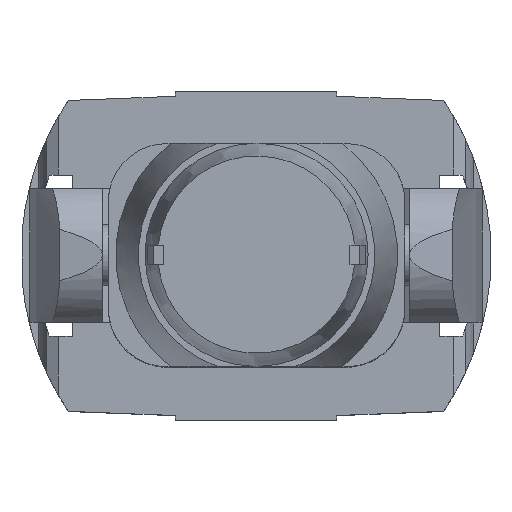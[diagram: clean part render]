
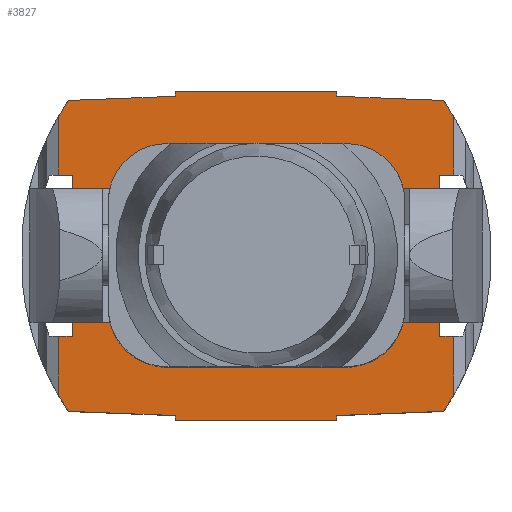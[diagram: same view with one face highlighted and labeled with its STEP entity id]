
A CAD part, top view. The second image highlights one B-rep face of the part: STEP entity #3827.
In plain terms, the highlighted planar face has unit normal (0, 0, 1).
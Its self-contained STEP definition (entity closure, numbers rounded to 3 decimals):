
#227=CIRCLE('',#4169,25.);
#228=CIRCLE('',#4170,286.325);
#229=CIRCLE('',#4171,286.325);
#230=CIRCLE('',#4172,286.325);
#231=CIRCLE('',#4173,286.325);
#489=ORIENTED_EDGE('',*,*,#1516,.T.);
#490=ORIENTED_EDGE('',*,*,#1517,.F.);
#491=ORIENTED_EDGE('',*,*,#1518,.F.);
#492=ORIENTED_EDGE('',*,*,#1394,.F.);
#493=ORIENTED_EDGE('',*,*,#1519,.F.);
#494=ORIENTED_EDGE('',*,*,#1520,.F.);
#495=ORIENTED_EDGE('',*,*,#1521,.F.);
#496=ORIENTED_EDGE('',*,*,#1479,.T.);
#497=ORIENTED_EDGE('',*,*,#1476,.F.);
#498=ORIENTED_EDGE('',*,*,#1467,.F.);
#499=ORIENTED_EDGE('',*,*,#1471,.T.);
#500=ORIENTED_EDGE('',*,*,#1522,.F.);
#501=ORIENTED_EDGE('',*,*,#1523,.T.);
#502=ORIENTED_EDGE('',*,*,#1524,.T.);
#503=ORIENTED_EDGE('',*,*,#1525,.T.);
#504=ORIENTED_EDGE('',*,*,#1526,.T.);
#505=ORIENTED_EDGE('',*,*,#1527,.T.);
#506=ORIENTED_EDGE('',*,*,#1528,.T.);
#507=ORIENTED_EDGE('',*,*,#1529,.T.);
#508=ORIENTED_EDGE('',*,*,#1530,.T.);
#509=ORIENTED_EDGE('',*,*,#1449,.T.);
#510=ORIENTED_EDGE('',*,*,#1453,.F.);
#511=ORIENTED_EDGE('',*,*,#1474,.F.);
#512=ORIENTED_EDGE('',*,*,#1514,.F.);
#513=ORIENTED_EDGE('',*,*,#1531,.F.);
#1394=EDGE_CURVE('',#1930,#1927,#2306,.T.);
#1449=EDGE_CURVE('',#1984,#1983,#2333,.T.);
#1453=EDGE_CURVE('',#1985,#1983,#2337,.T.);
#1467=EDGE_CURVE('',#1998,#1999,#2341,.T.);
#1471=EDGE_CURVE('',#1998,#2000,#2345,.T.);
#1474=EDGE_CURVE('',#2001,#1985,#2348,.T.);
#1476=EDGE_CURVE('',#1999,#2002,#2350,.T.);
#1479=EDGE_CURVE('',#2004,#2002,#2353,.T.);
#1514=EDGE_CURVE('',#2024,#2001,#2373,.T.);
#1516=EDGE_CURVE('',#2025,#2025,#227,.T.);
#1517=EDGE_CURVE('',#2026,#2027,#2374,.T.);
#1518=EDGE_CURVE('',#1927,#2026,#2375,.T.);
#1519=EDGE_CURVE('',#2028,#1930,#2376,.T.);
#1520=EDGE_CURVE('',#2029,#2028,#2377,.T.);
#1521=EDGE_CURVE('',#2004,#2029,#228,.T.);
#1522=EDGE_CURVE('',#2030,#2000,#2378,.T.);
#1523=EDGE_CURVE('',#2030,#2031,#229,.T.);
#1524=EDGE_CURVE('',#2031,#2032,#2379,.T.);
#1525=EDGE_CURVE('',#2032,#2033,#2380,.T.);
#1526=EDGE_CURVE('',#2033,#2034,#2381,.T.);
#1527=EDGE_CURVE('',#2034,#2035,#2382,.T.);
#1528=EDGE_CURVE('',#2035,#2036,#2383,.T.);
#1529=EDGE_CURVE('',#2036,#2037,#230,.T.);
#1530=EDGE_CURVE('',#2037,#1984,#2384,.T.);
#1531=EDGE_CURVE('',#2027,#2024,#231,.T.);
#1927=VERTEX_POINT('',#5652);
#1930=VERTEX_POINT('',#5657);
#1983=VERTEX_POINT('',#5790);
#1984=VERTEX_POINT('',#5792);
#1985=VERTEX_POINT('',#5797);
#1998=VERTEX_POINT('',#5848);
#1999=VERTEX_POINT('',#5850);
#2000=VERTEX_POINT('',#5855);
#2001=VERTEX_POINT('',#5860);
#2002=VERTEX_POINT('',#5865);
#2004=VERTEX_POINT('',#5871);
#2024=VERTEX_POINT('',#5960);
#2025=VERTEX_POINT('',#5964);
#2026=VERTEX_POINT('',#5966);
#2027=VERTEX_POINT('',#5967);
#2028=VERTEX_POINT('',#5970);
#2029=VERTEX_POINT('',#5972);
#2030=VERTEX_POINT('',#5975);
#2031=VERTEX_POINT('',#5977);
#2032=VERTEX_POINT('',#5979);
#2033=VERTEX_POINT('',#5981);
#2034=VERTEX_POINT('',#5983);
#2035=VERTEX_POINT('',#5985);
#2036=VERTEX_POINT('',#5987);
#2037=VERTEX_POINT('',#5989);
#2306=LINE('',#5658,#2658);
#2333=LINE('',#5791,#2685);
#2337=LINE('',#5798,#2689);
#2341=LINE('',#5849,#2693);
#2345=LINE('',#5856,#2697);
#2348=LINE('',#5861,#2700);
#2350=LINE('',#5864,#2702);
#2353=LINE('',#5870,#2705);
#2373=LINE('',#5959,#2725);
#2374=LINE('',#5965,#2726);
#2375=LINE('',#5968,#2727);
#2376=LINE('',#5969,#2728);
#2377=LINE('',#5971,#2729);
#2378=LINE('',#5974,#2730);
#2379=LINE('',#5978,#2731);
#2380=LINE('',#5980,#2732);
#2381=LINE('',#5982,#2733);
#2382=LINE('',#5984,#2734);
#2383=LINE('',#5986,#2735);
#2384=LINE('',#5990,#2736);
#2658=VECTOR('',#4513,1000.);
#2685=VECTOR('',#4594,1000.);
#2689=VECTOR('',#4600,1000.);
#2693=VECTOR('',#4620,1000.);
#2697=VECTOR('',#4626,1000.);
#2700=VECTOR('',#4631,1000.);
#2702=VECTOR('',#4635,1000.);
#2705=VECTOR('',#4640,1000.);
#2725=VECTOR('',#4708,1000.);
#2726=VECTOR('',#4715,1000.);
#2727=VECTOR('',#4716,1000.);
#2728=VECTOR('',#4717,1000.);
#2729=VECTOR('',#4718,1000.);
#2730=VECTOR('',#4721,1000.);
#2731=VECTOR('',#4724,1000.);
#2732=VECTOR('',#4725,1000.);
#2733=VECTOR('',#4726,1000.);
#2734=VECTOR('',#4727,1000.);
#2735=VECTOR('',#4728,1000.);
#2736=VECTOR('',#4731,1000.);
#3044=EDGE_LOOP('',(#489));
#3045=EDGE_LOOP('',(#490,#491,#492,#493,#494,#495,#496,#497,#498,#499,#500,
#501,#502,#503,#504,#505,#506,#507,#508,#509,#510,#511,#512,#513));
#3362=FACE_BOUND('',#3044,.T.);
#3363=FACE_BOUND('',#3045,.T.);
#3654=PLANE('',#4168);
#3827=ADVANCED_FACE('',(#3362,#3363),#3654,.F.);
#4168=AXIS2_PLACEMENT_3D('',#5962,#4711,#4712);
#4169=AXIS2_PLACEMENT_3D('',#5963,#4713,#4714);
#4170=AXIS2_PLACEMENT_3D('',#5973,#4719,#4720);
#4171=AXIS2_PLACEMENT_3D('',#5976,#4722,#4723);
#4172=AXIS2_PLACEMENT_3D('',#5988,#4729,#4730);
#4173=AXIS2_PLACEMENT_3D('',#5991,#4732,#4733);
#4513=DIRECTION('',(-1.,0.,0.));
#4594=DIRECTION('',(1.,0.,0.));
#4600=DIRECTION('',(0.,1.,0.));
#4620=DIRECTION('',(0.,-1.,0.));
#4626=DIRECTION('',(1.,0.,0.));
#4631=DIRECTION('',(1.,0.,0.));
#4635=DIRECTION('',(1.,0.,0.));
#4640=DIRECTION('',(0.,1.,0.));
#4708=DIRECTION('',(0.,1.,0.));
#4711=DIRECTION('',(0.,0.,-1.));
#4712=DIRECTION('',(-1.,0.,0.));
#4713=DIRECTION('',(0.,0.,-1.));
#4714=DIRECTION('',(-1.,0.,0.));
#4715=DIRECTION('',(-0.999,0.039,0.));
#4716=DIRECTION('',(0.,1.,0.));
#4717=DIRECTION('',(0.,-1.,0.));
#4718=DIRECTION('',(-0.999,-0.039,0.));
#4719=DIRECTION('',(0.,0.,-1.));
#4720=DIRECTION('',(-1.,0.,0.));
#4721=DIRECTION('',(0.,-1.,0.));
#4722=DIRECTION('',(0.,0.,1.));
#4723=DIRECTION('',(1.,0.,0.));
#4724=DIRECTION('',(-0.999,0.039,0.));
#4725=DIRECTION('',(0.,1.,0.));
#4726=DIRECTION('',(-1.,0.,0.));
#4727=DIRECTION('',(0.,-1.,0.));
#4728=DIRECTION('',(-0.999,-0.039,0.));
#4729=DIRECTION('',(0.,0.,1.));
#4730=DIRECTION('',(1.,0.,0.));
#4731=DIRECTION('',(0.,-1.,0.));
#4732=DIRECTION('',(0.,0.,-1.));
#4733=DIRECTION('',(-1.,0.,0.));
#5652=CARTESIAN_POINT('',(-83.303,-169.654,102.853));
#5657=CARTESIAN_POINT('',(83.303,-169.654,102.853));
#5658=CARTESIAN_POINT('',(-83.303,-169.654,102.853));
#5790=CARTESIAN_POINT('',(-189.287,83.367,102.853));
#5791=CARTESIAN_POINT('',(-212.646,83.367,102.853));
#5792=CARTESIAN_POINT('',(-203.675,83.367,102.853));
#5797=CARTESIAN_POINT('',(-189.287,-82.964,102.853));
#5798=CARTESIAN_POINT('',(-189.287,83.367,102.853));
#5848=CARTESIAN_POINT('',(189.287,83.367,102.853));
#5849=CARTESIAN_POINT('',(189.287,83.367,102.853));
#5850=CARTESIAN_POINT('',(189.287,-82.964,102.853));
#5855=CARTESIAN_POINT('',(203.675,83.367,102.853));
#5856=CARTESIAN_POINT('',(212.646,83.367,102.853));
#5860=CARTESIAN_POINT('',(-203.675,-82.964,102.853));
#5861=CARTESIAN_POINT('',(-212.646,-82.964,102.853));
#5864=CARTESIAN_POINT('',(212.646,-82.964,102.853));
#5865=CARTESIAN_POINT('',(203.675,-82.964,102.853));
#5870=CARTESIAN_POINT('',(203.675,-602.76,102.853));
#5871=CARTESIAN_POINT('',(203.675,-143.751,102.853));
#5959=CARTESIAN_POINT('',(-203.675,-602.76,102.853));
#5960=CARTESIAN_POINT('',(-203.675,-143.751,102.853));
#5962=CARTESIAN_POINT('',(203.675,-602.76,102.853));
#5963=CARTESIAN_POINT('',(0.,0.,102.853));
#5964=CARTESIAN_POINT('',(-25.,0.,102.853));
#5965=CARTESIAN_POINT('',(-193.314,-160.277,102.853));
#5966=CARTESIAN_POINT('',(-83.303,-164.605,102.853));
#5967=CARTESIAN_POINT('',(-193.314,-160.277,102.853));
#5968=CARTESIAN_POINT('',(-83.303,-164.605,102.853));
#5969=CARTESIAN_POINT('',(83.303,-164.605,102.853));
#5970=CARTESIAN_POINT('',(83.303,-164.605,102.853));
#5971=CARTESIAN_POINT('',(193.314,-160.277,102.853));
#5972=CARTESIAN_POINT('',(193.314,-160.277,102.853));
#5973=CARTESIAN_POINT('',(-43.959,-0.017,102.853));
#5974=CARTESIAN_POINT('',(203.675,602.76,102.853));
#5975=CARTESIAN_POINT('',(203.675,143.718,102.853));
#5976=CARTESIAN_POINT('',(-43.959,-0.017,102.853));
#5977=CARTESIAN_POINT('',(193.296,160.271,102.853));
#5978=CARTESIAN_POINT('',(193.296,160.271,102.853));
#5979=CARTESIAN_POINT('',(83.303,164.605,102.853));
#5980=CARTESIAN_POINT('',(83.303,164.605,102.853));
#5981=CARTESIAN_POINT('',(83.303,169.654,102.853));
#5982=CARTESIAN_POINT('',(-83.303,169.654,102.853));
#5983=CARTESIAN_POINT('',(-83.303,169.654,102.853));
#5984=CARTESIAN_POINT('',(-83.303,164.605,102.853));
#5985=CARTESIAN_POINT('',(-83.303,164.605,102.853));
#5986=CARTESIAN_POINT('',(-193.296,160.271,102.853));
#5987=CARTESIAN_POINT('',(-193.296,160.271,102.853));
#5988=CARTESIAN_POINT('',(43.959,-0.017,102.853));
#5989=CARTESIAN_POINT('',(-203.675,143.718,102.853));
#5990=CARTESIAN_POINT('',(-203.675,602.76,102.853));
#5991=CARTESIAN_POINT('',(43.959,-0.017,102.853));
